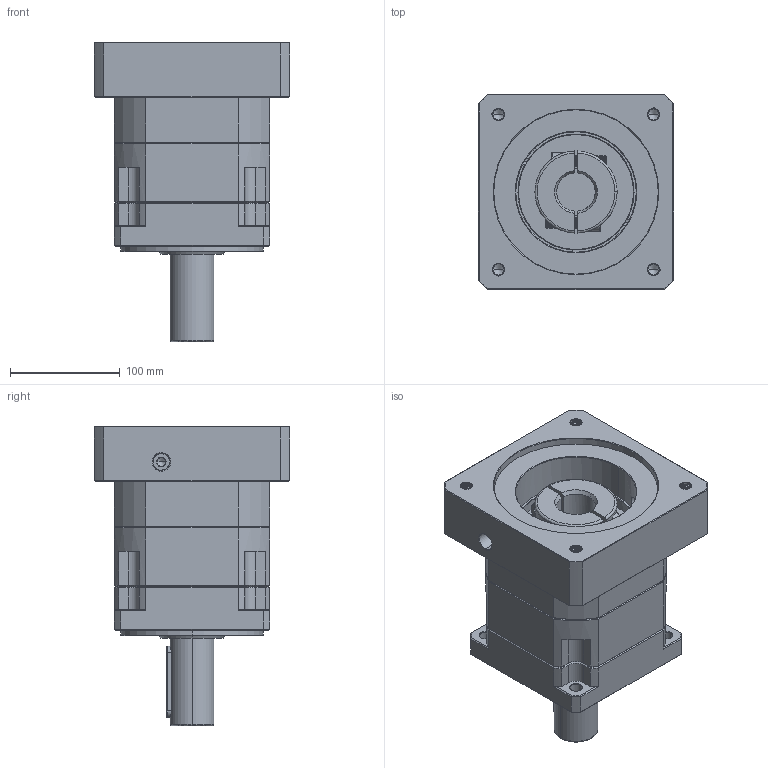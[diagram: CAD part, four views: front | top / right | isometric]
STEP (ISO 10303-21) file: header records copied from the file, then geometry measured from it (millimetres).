
FILE_DESCRIPTION (( 'STEP AP214' ), '1' );
FILE_NAME ('ZB142A-D40-L1-P2-35-150-200-M12.step', '2023-09-01T11:42:13', ( '' ), ( '' ), 'SwSTEP 2.0', 'SolidWorks 2016', '' );
FILE_SCHEMA (( 'AUTOMOTIVE_DESIGN' ));
Length unit declared in the file: millimetre
Products named in the file (1): ZB142A-D40-L1-P2-35-150-200-M12
Bounding box: 178 x 178 x 273.2 mm (x, y, z)
Volume: 3765768.6 mm3; surface area: 318249.8 mm2
Topology: 6 solids, 6 shells, 2302 faces, 6168 edges, 3970 vertices
Faces by surface type: plane 1103, cylinder 414, bspline 411, cone 352, torus 22
Entity records: 129573 total; most frequent: CARTESIAN_POINT 49895, ORIENTED_EDGE 12276, DIRECTION 9760, EDGE_CURVE 6138, VERTEX_POINT 3970, VECTOR 3888, LINE 3888, AXIS2_PLACEMENT_3D 2936
